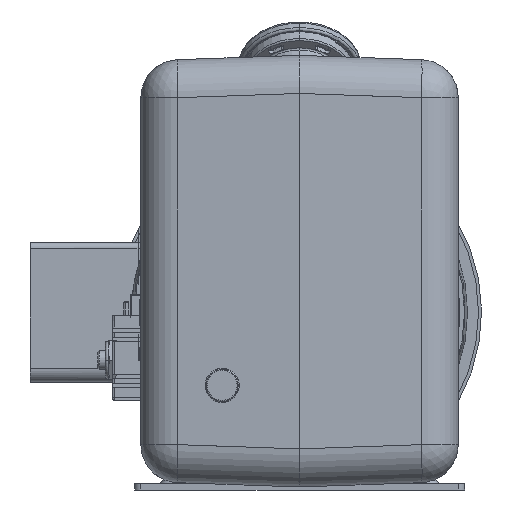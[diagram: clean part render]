
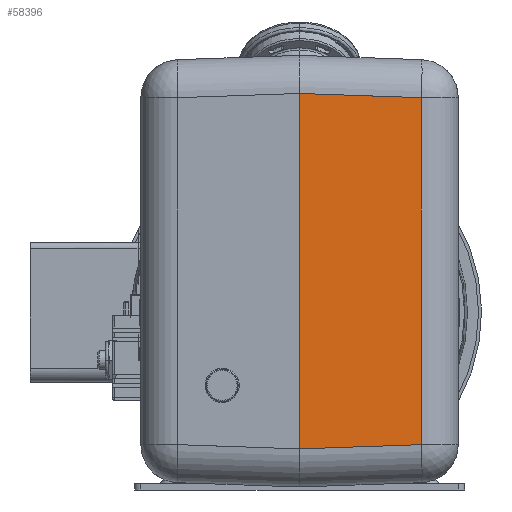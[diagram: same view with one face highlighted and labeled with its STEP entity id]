
A CAD part, front view. The second image highlights one B-rep face of the part: STEP entity #58396.
In plain terms, the highlighted planar face has unit normal (0.035, -0.999, 0).
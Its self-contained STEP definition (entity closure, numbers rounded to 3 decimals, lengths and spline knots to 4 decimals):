
#55415=DIRECTION('',(0.,0.,1.));
#55416=VECTOR('',#55415,7.0009);
#55417=CARTESIAN_POINT('',(0.,-17.943,-2.6905));
#55418=LINE('',#55417,#55416);
#55528=DIRECTION('',(-0.999,-0.035,0.035));
#55529=VECTOR('',#55528,2.4041);
#55530=CARTESIAN_POINT('',(2.4012,-17.8591,
4.2266));
#55531=LINE('',#55530,#55529);
#55541=DIRECTION('',(0.,0.,1.));
#55542=VECTOR('',#55541,6.8332);
#55543=CARTESIAN_POINT('',(2.4012,-17.8591,
-2.6066));
#55544=LINE('',#55543,#55542);
#55577=DIRECTION('',(0.999,0.035,0.035));
#55578=VECTOR('',#55577,2.4041);
#55579=CARTESIAN_POINT('',(0.,-17.943,-2.6905));
#55580=LINE('',#55579,#55578);
#56859=CARTESIAN_POINT('',(0.,-17.943,-2.6905));
#56860=VERTEX_POINT('',#56859);
#56861=CARTESIAN_POINT('',(2.4012,-17.8591,
-2.6066));
#56862=VERTEX_POINT('',#56861);
#56865=CARTESIAN_POINT('',(2.4012,-17.8591,
4.2266));
#56866=VERTEX_POINT('',#56865);
#56881=CARTESIAN_POINT('',(0.,-17.943,4.3105));
#56882=VERTEX_POINT('',#56881);
#58382=CARTESIAN_POINT('',(0.,-17.943,-3.44));
#58383=DIRECTION('',(-0.035,0.999,0.));
#58384=DIRECTION('',(0.,0.,-1.));
#58385=AXIS2_PLACEMENT_3D('',#58382,#58383,#58384);
#58386=PLANE('',#58385);
#58388=ORIENTED_EDGE('',*,*,#58387,.F.);
#58389=ORIENTED_EDGE('',*,*,#58369,.T.);
#58391=ORIENTED_EDGE('',*,*,#58390,.F.);
#58393=ORIENTED_EDGE('',*,*,#58392,.F.);
#58394=EDGE_LOOP('',(#58388,#58389,#58391,#58393));
#58395=FACE_OUTER_BOUND('',#58394,.F.);
#58396=ADVANCED_FACE('',(#58395),#58386,.F.);
#58369=EDGE_CURVE('',#56860,#56882,#55418,.T.);
#58387=EDGE_CURVE('',#56860,#56862,#55580,.T.);
#58390=EDGE_CURVE('',#56866,#56882,#55531,.T.);
#58392=EDGE_CURVE('',#56862,#56866,#55544,.T.);
